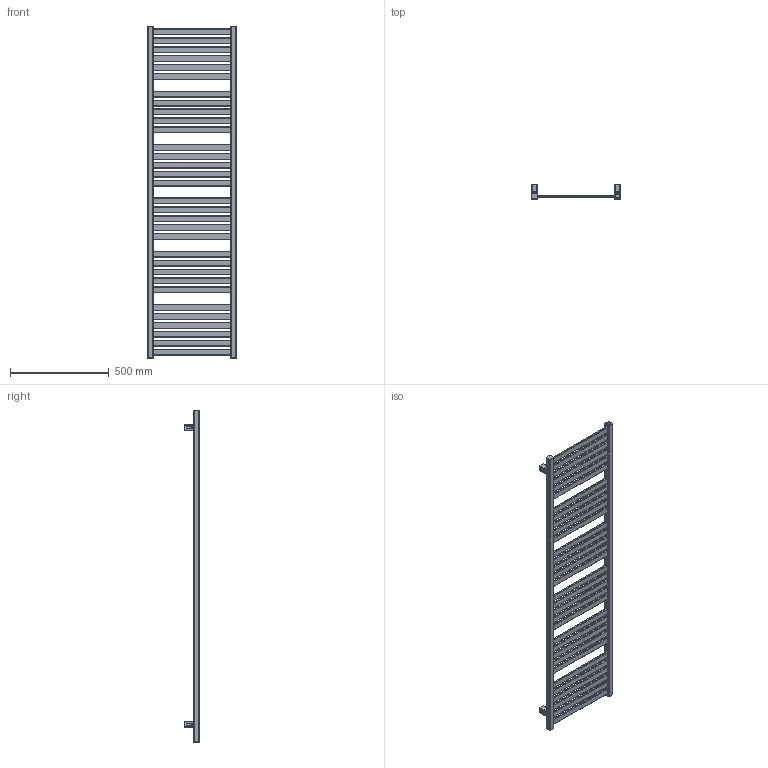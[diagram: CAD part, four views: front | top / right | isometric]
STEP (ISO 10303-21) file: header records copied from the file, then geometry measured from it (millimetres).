
FILE_DESCRIPTION((''),'2;1');
FILE_NAME('Z:\R\G\P\RGPH09 - Grzejnik Marlin\Work\Inventor\Grzejnik Marlin v3.0\Marketing\AutoCad 3D\MR-1680-450-SX_MKT.stp','2012-07-25T08:35:44',('PioRo'),(''),'Autodesk Inventor 2012','Autodesk Inventor 2012','');
FILE_SCHEMA(('AUTOMOTIVE_DESIGN { 1 0 10303 214 1 1 1 1 }'));
Length unit declared in the file: millimetre
Products named in the file (3): MR-1680-450-SX_MKT; MKT42-00-A v0.2
Assembly tree (5 placements, depth 2):
  MR-1680-450-SX_MKT
    MR-1680-450-SX_MKT
    MKT42-00-A v0.2  x4
Bounding box: 453.98 x 74.5 x 1680 mm (x, y, z)
Volume: 6867262.8 mm3; surface area: 1371226.9 mm2
Topology: 5 solids, 5 shells, 593 faces, 1555 edges, 1001 vertices
Faces by surface type: cylinder 263, plane 255, bspline 60, torus 11, cone 4
Full cylindrical faces by diameter (mm): 4.134 x4, 10 x4, 12 x4, 18.631 x3
Entity records: 13989 total; most frequent: CARTESIAN_POINT 3519, DIRECTION 2208, ORIENTED_EDGE 2126, EDGE_CURVE 1063, AXIS2_PLACEMENT_3D 784, VERTEX_POINT 703, VECTOR 640, LINE 640
